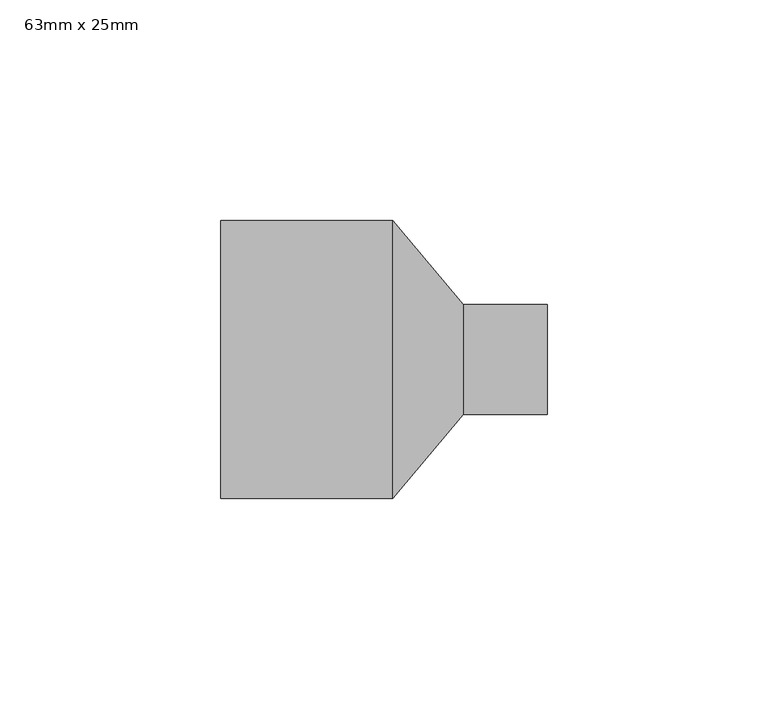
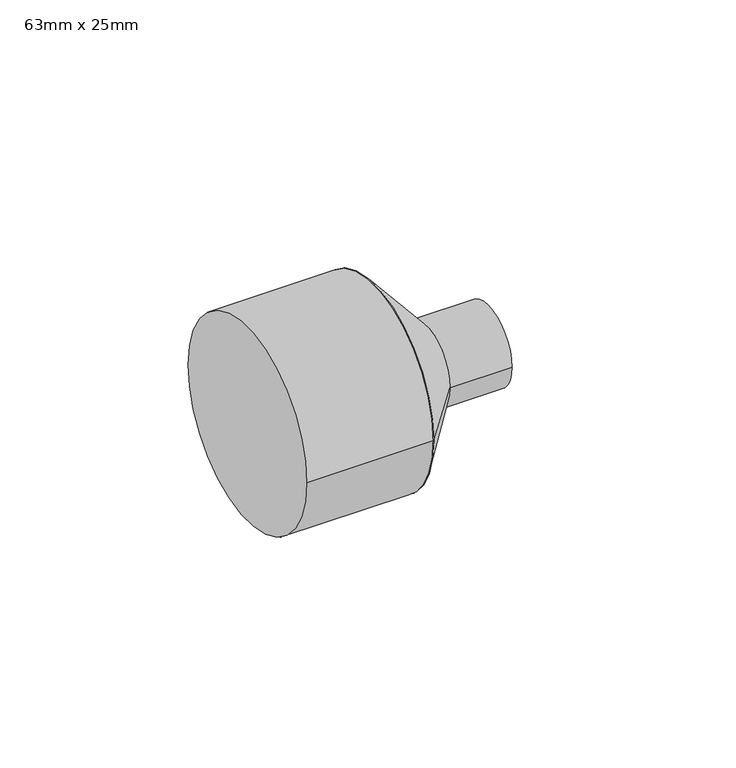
"""IFC4 building model written with IfcOpenShell, lengths in millimetres: pipe fitting geometry, PipeFitting_HTA_CPVC_ReducingBushesLongPattern : 63mm x 25mm."""

from ifc_helpers import new_model, si_unit, point, frame, origin, origin_2d, place, context, project, spatial, polyline, circle_curve, trimmed, segment, composite_curve, outline, extrude, source, transform, mapped, element, save
from ifc_brep_helpers import plane_surface, revolved_surface, advanced_brep


def pipe_fitting_63mm_x_25mm_ae398bdc(model_context):
    return source(origin(), model_context, "Body", "SolidModel", [
        advanced_brep(
        [(55.0, -12.5, 0.0), (55.0, 12.5, 0.0), (39.0, -31.5, 0.0), (39.0, 31.5, 0.0)],
        [
            (0, 1, circle_curve(frame((55.0, 0.0, 0.0), z_axis=(1.0, 0.0, 0.0), x_axis=(0.0, -1.0, 0.0)), 12.5)),
            (1, 0, circle_curve(frame((55.0, 0.0, 0.0), z_axis=(1.0, 0.0, 0.0), x_axis=(0.0, 1.0, 0.0)), 12.5)),
            (2, 3, circle_curve(frame((39.0, 0.0, 0.0), z_axis=(-1.0, 0.0, 0.0), x_axis=(0.0, 1.0, 0.0)), 31.5)),
            (3, 2, circle_curve(frame((39.0, 0.0, 0.0), z_axis=(-1.0, 0.0, 0.0), x_axis=(0.0, -1.0, 0.0)), 31.5)),
            (3, 1),
            (0, 2),
        ],
        [
            plane_surface(frame((55.0, 0.0, 0.0), z_axis=(1.0, 0.0, 0.0), x_axis=(0.0, 0.0, -1.0))),
            plane_surface(frame((39.0, 0.0, 0.0), z_axis=(-1.0, 0.0, 0.0), x_axis=(0.0, 0.0, -1.0))),
            revolved_surface(polyline([(55.0, -12.500000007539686, 0.0), (39.0, -31.5, 0.0)]), (65.5263158, 0.0, 0.0), (-1.0, 0.0, 0.0)),
            revolved_surface(polyline([(55.0, 12.500000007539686, 0.0), (39.0, 31.5, 0.0)]), (65.5263158, 0.0, 0.0), (-1.0, 0.0, 0.0)),
        ],
        [
            (0, [[1, 2]]),
            (1, [[3, 4]]),
            (2, [[-4, 5, -1, 6]]),
            (3, [[-3, -6, -2, -5]]),
        ],
    ),
        extrude(outline(composite_curve([segment(trimmed(circle_curve(origin_2d(), 12.5), [point((-12.5, 0.0))], [point((12.5, 0.0))], False, "CARTESIAN"), True, "CONTINUOUS"), segment(trimmed(circle_curve(origin_2d(), 12.5), [point((12.5, 0.0))], [point((-12.5, 0.0))], False, "CARTESIAN"), True, "CONTINUOUS")], self_intersect=False)), frame((55.0, 0.0, 0.0), z_axis=(1.0, 0.0, 0.0), x_axis=(0.0, 1.0, 0.0)), (0.0, 0.0, 1.0), 19.0),
        extrude(outline(composite_curve([segment(trimmed(circle_curve(origin_2d(), 31.5), [point((-31.5, 0.0))], [point((31.5, 0.0))], False, "CARTESIAN"), True, "CONTINUOUS"), segment(trimmed(circle_curve(origin_2d(), 31.5), [point((31.5, 0.0))], [point((-31.5, 0.0))], False, "CARTESIAN"), True, "CONTINUOUS")], self_intersect=False)), frame((0.0, 0.0, 0.0), z_axis=(1.0, 0.0, 0.0), x_axis=(0.0, 1.0, 0.0)), (0.0, 0.0, 1.0), 39.0),
    ])


if __name__ == "__main__":
    model = new_model("IFC4")
    model_context = context("Model", 3, world=origin())
    ifc_project = project(units=[si_unit("LENGTHUNIT", "METRE", prefix="MILLI")], contexts=[model_context])
    site = spatial("IfcSite", under=ifc_project)
    building = spatial("IfcBuilding", under=site)
    placement = place(None, origin())
    pipe_fitting_63mm_x_25mm_shape = pipe_fitting_63mm_x_25mm_ae398bdc(model_context)
    element("IfcPipeFitting", 1, ObjectType="PipeFitting_HTA_CPVC_ReducingBushesLongPattern : 63mm x 25mm", at=placement, inside=building, context=model_context, shape_type="MappedRepresentation", body=[
        mapped(pipe_fitting_63mm_x_25mm_shape, transform((0.0, 0.0, 0.0), x_axis=(1.0, 0.0, 0.0), y_axis=(0.0, 1.0, 0.0), z_axis=(0.0, 0.0, 1.0))),
    ])
    save(model, "model.ifc")
